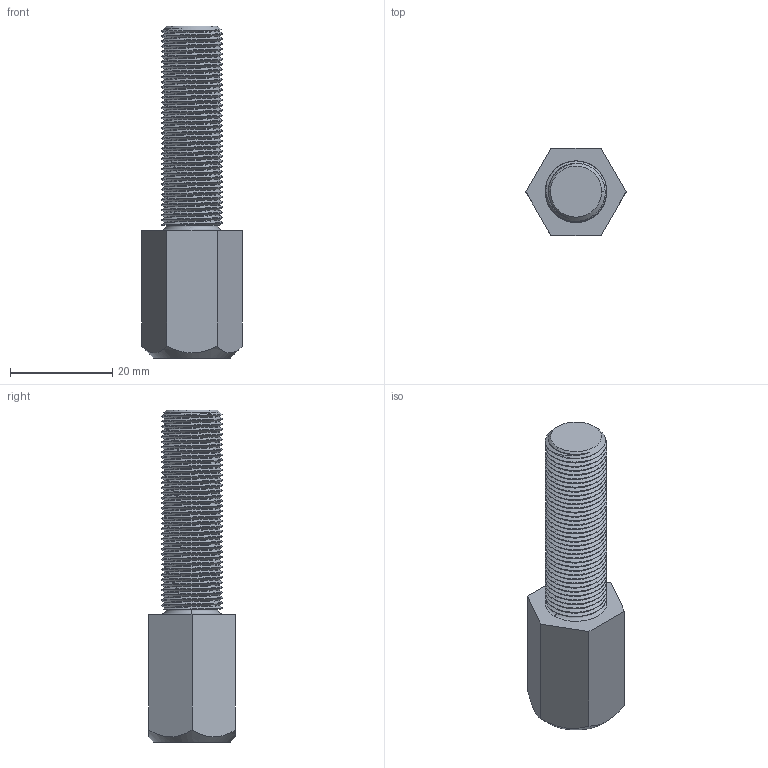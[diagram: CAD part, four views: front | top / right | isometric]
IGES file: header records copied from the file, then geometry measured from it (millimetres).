
Start section:  PTC IGES file: 022543_cp-022al.igs
Global section: file name: 022543_cp-022al.igs; native system: Pro/ENGINEER by Parametric Technology Corporation; preprocessor: 2004090; author: KAIHATSU01; organization: Unknown; date: 061017.111157; units: millimetre
Bounding box: 19.63 x 17 x 65 mm (x, y, z)
Volume: 7824.4 mm3; surface area: 5107.5 mm2
Topology: 1 solids, 1 shells, 129 faces, 334 edges, 209 vertices
Faces by surface type: bspline 129
